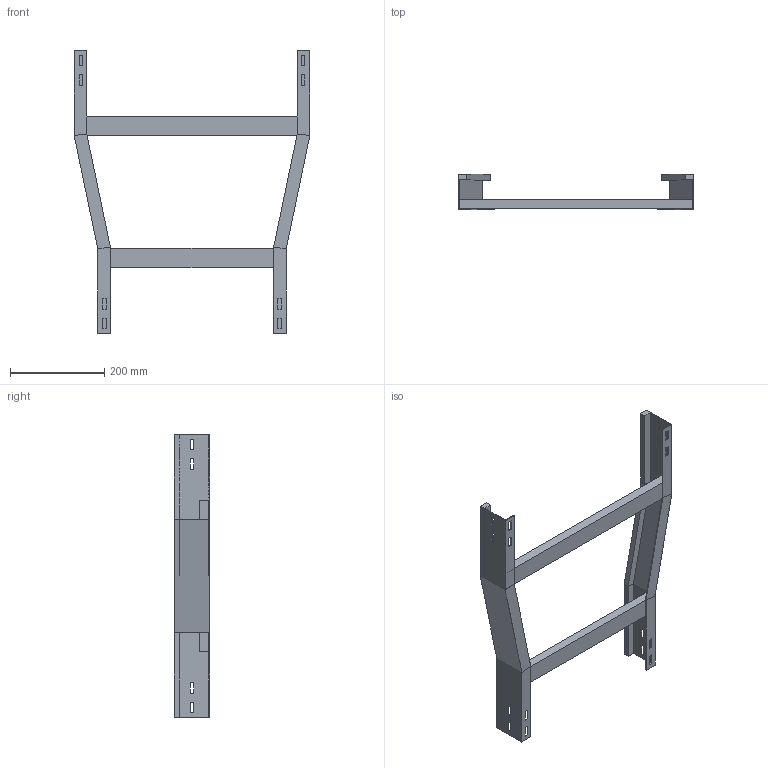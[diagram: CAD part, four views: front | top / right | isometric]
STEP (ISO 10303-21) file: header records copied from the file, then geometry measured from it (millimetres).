
FILE_DESCRIPTION (( 'STEP AP214' ), '1' );
FILE_NAME ('B2X20B4C500XX.step', '2025-09-02T17:14:26', ( '' ), ( '' ), 'SwSTEP 2.0', 'SolidWorks 2023', '' );
FILE_SCHEMA (( 'AUTOMOTIVE_DESIGN' ));
Length unit declared in the file: millimetre
Products named in the file (4): SPONDA RID. CENTRALE 500-400_H75; B2X20B4C500XX; TRAVERSINO_500; TRAVERSINO_400
Assembly tree (3 placements, depth 2):
  B2X20B4C500XX
    SPONDA RID. CENTRALE 500-400_H75
    TRAVERSINO_400
    TRAVERSINO_500
Bounding box: 500 x 75 x 600 mm (x, y, z)
Volume: 1192032 mm3; surface area: 395300.2 mm2
Topology: 4 solids, 4 shells, 128 faces, 328 edges, 208 vertices
Faces by surface type: plane 128
Entity records: 3950 total; most frequent: CARTESIAN_POINT 670, ORIENTED_EDGE 656, DIRECTION 596, LINE 328, EDGE_CURVE 328, VECTOR 328, VERTEX_POINT 208, EDGE_LOOP 160
